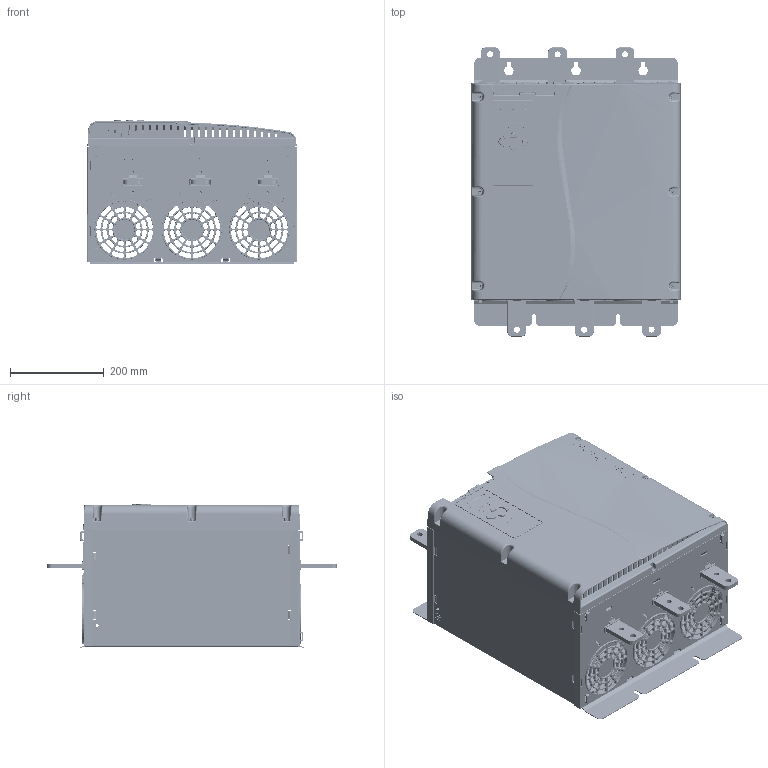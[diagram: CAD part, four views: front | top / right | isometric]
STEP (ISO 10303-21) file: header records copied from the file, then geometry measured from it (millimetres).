
FILE_DESCRIPTION (( 'STEP AP203' ), '1' );
FILE_NAME ('S3 Enclosure internal Bypass 08-04-2020.STEP', '2020-04-08T01:58:57', ( '' ), ( '' ), 'SwSTEP 2.0', 'SolidWorks 2019', '' );
FILE_SCHEMA (( 'CONFIG_CONTROL_DESIGN' ));
Length unit declared in the file: millimetre
Products named in the file (25): 633-21280-00; 300-07410-00; PEM self-clinching nuts_M5x0.8 t=1.4 S or CLS; Hexagon Head Pozidriv SEM_M5x16; 624-21286-00; PEM SO Standoffs_M5x14 THTS; 340-21334-001; 633-21289-00_Aucom (633-21289-00); 633-21281-00_Aucom 633-21281-00; GA 1.38 (Final Design)_Internal ByPassed; 633-15299-00; 991-17216-00_Danfoss; PEM self-clinching nuts_M8x1.25 t=1.4 S or CLS; 633-17037-00; 633-15475-00; 633-16066-00; S3 Enclosure internal Bypass 08-04-2020; Aucom label_TradeMark Removed; 300-07409-00; 633-21279-00; 633-21275-00; 621-20853-00
Assembly tree (55 placements, depth 3):
  S3 Enclosure internal Bypass 08-04-2020
    624-21286-00
      624-21286-00
      PEM self-clinching nuts_M5x0.8 t=1.4 S or CLS  x10
      PEM SO Standoffs_M5x14 THTS  x12
      PEM self-clinching nuts_M8x1.25 t=1.4 S or CLS  x2
    GA 1.38 (Final Design)_Internal ByPassed
      621-20853-00  x2
    GA 1.38 (Final Design)_Internal ByPassed
      621-20853-00  x2
    GA 1.38 (Final Design)_Internal ByPassed
      621-20853-00  x2
    633-21279-00
    633-21280-00
    340-21334-001
    991-17216-00_Danfoss
      300-07409-00
      300-07410-00
      633-17037-00
    633-16066-00
    633-15475-00
    633-21289-00_Aucom (633-21289-00)
      633-21281-00_Aucom 633-21281-00
      633-15299-00
    Hexagon Head Pozidriv SEM_M5x16  x6
    633-21275-00
    Aucom label_TradeMark Removed
Bounding box: 447.06 x 618 x 309.73 mm (x, y, z)
Volume: 3407722.6 mm3; surface area: 2734767.2 mm2
Topology: 69 solids, 70 shells, 24712 faces, 62019 edges, 38153 vertices
Faces by surface type: plane 8662, cylinder 4826, bspline 4718, cone 3784, torus 2298, sphere 424
Entity records: 891282 total; most frequent: CARTESIAN_POINT 359144, ORIENTED_EDGE 118324, DIRECTION 99871, EDGE_CURVE 59162, VERTEX_POINT 36490, AXIS2_PLACEMENT_3D 35461, VECTOR 28949, LINE 28949
